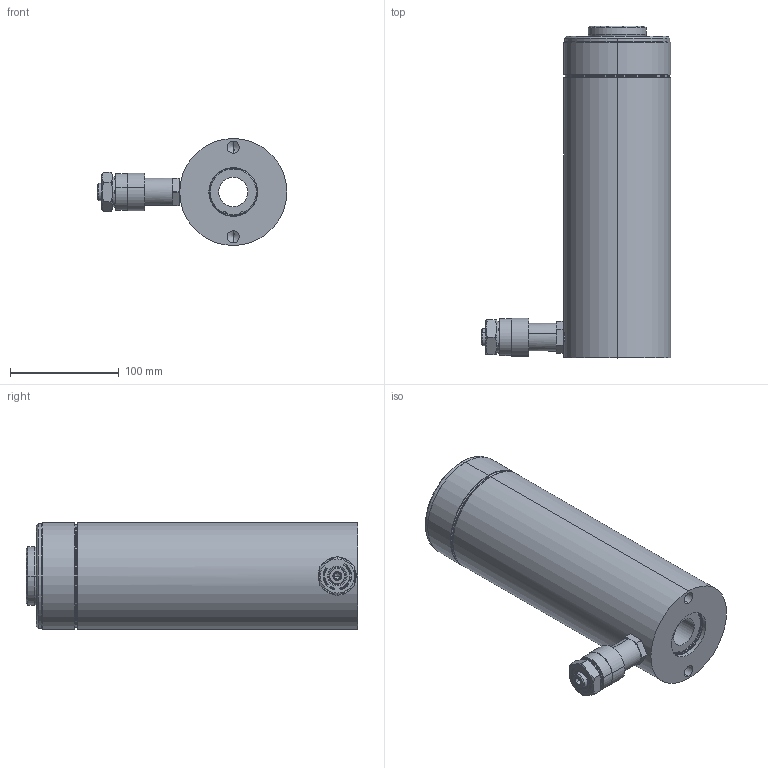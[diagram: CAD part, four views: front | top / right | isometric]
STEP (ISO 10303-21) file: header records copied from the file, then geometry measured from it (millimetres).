
FILE_DESCRIPTION((''),'2;1');
FILE_NAME('RCH-206','2017-08-23T',('mike.ward'),(''),'CREO PARAMETRIC BY PTC INC, 2015290','CREO PARAMETRIC BY PTC INC, 2015290','');
FILE_SCHEMA(('CONFIG_CONTROL_DESIGN'));
Length unit declared in the file: inch
Products named in the file (1): RCH-206
Bounding box: 174.51 x 305.65 x 98.55 mm (x, y, z)
Volume: 1574220.5 mm3; surface area: 330994.3 mm2
Topology: 2 solids, 4 shells, 1243 faces, 3272 edges, 2110 vertices
Faces by surface type: plane 891, cylinder 159, cone 111, torus 78, bspline 4
Entity records: 39488 total; most frequent: CARTESIAN_POINT 8615, ORIENTED_EDGE 6512, DIRECTION 6144, EDGE_CURVE 3256, VECTOR 2590, LINE 2590, VERTEX_POINT 2110, AXIS2_PLACEMENT_3D 1777
